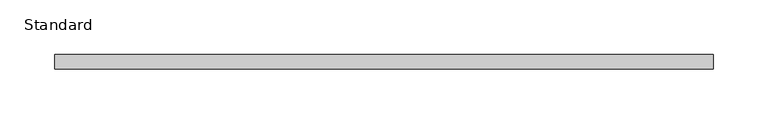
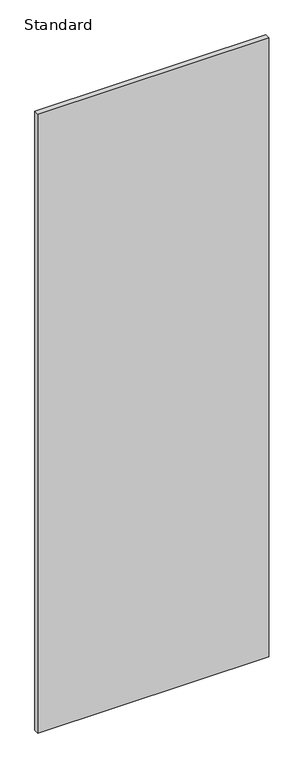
"""IFC4 building model written with IfcOpenShell, lengths in millimetres: furniture geometry, X_Partition-Compact Laminate-Duracube-Door : Standard."""

from ifc_helpers import new_model, si_unit, frame, origin, place, context, project, spatial, polyline, outline, extrude, source, transform, mapped, element, save


def standard_d9afaeec(model_context):
    return source(origin(), model_context, "Body", "SweptSolid", [
        extrude(outline(polyline([(344.7003264, 0.0), (344.7003264, -13.0), (-255.2996736, -13.0), (-255.2996736, 0.0), (344.7003264, 0.0)])), frame((0.0, 0.0, 200.0), z_axis=(0.0, 0.0, 1.0), x_axis=(1.0, 0.0, 0.0)), (0.0, 0.0, 1.0), 1700.0),
    ])


if __name__ == "__main__":
    model = new_model("IFC4")
    model_context = context("Model", 3, world=origin())
    ifc_project = project(units=[si_unit("LENGTHUNIT", "METRE", prefix="MILLI")], contexts=[model_context])
    site = spatial("IfcSite", under=ifc_project)
    building = spatial("IfcBuilding", under=site)
    placement = place(None, origin())
    standard_shape = standard_d9afaeec(model_context)
    element("IfcFurniture", 1, ObjectType="X_Partition-Compact Laminate-Duracube-Door : Standard", at=placement, inside=building, context=model_context, shape_type="MappedRepresentation", body=[
        mapped(standard_shape, transform((0.0, 0.0, 0.0), x_axis=(1.0, 0.0, 0.0), y_axis=(0.0, 1.0, 0.0), z_axis=(0.0, 0.0, 1.0))),
    ])
    save(model, "model.ifc")
